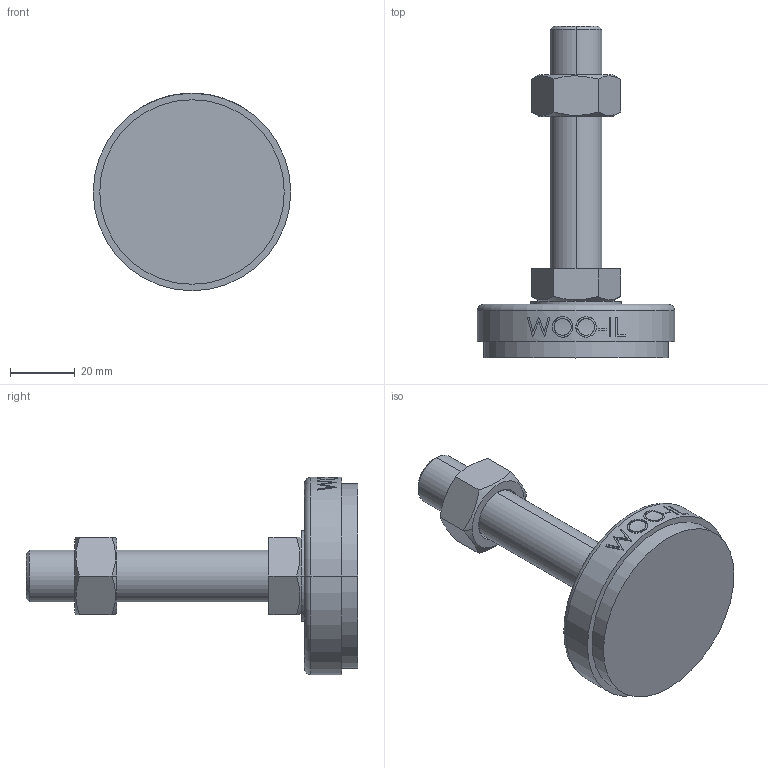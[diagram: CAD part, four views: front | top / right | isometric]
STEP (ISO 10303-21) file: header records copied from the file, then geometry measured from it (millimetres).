
FILE_DESCRIPTION (( 'STEP AP214' ), '1' );
FILE_NAME ('NS61-M16-75.step', '2021-01-11T05:46:23', ( '' ), ( '' ), 'SwSTEP 2.0', 'SolidWorks 2019', '' );
FILE_SCHEMA (( 'AUTOMOTIVE_DESIGN' ));
Length unit declared in the file: millimetre
Products named in the file (2): NS61-M16-75
Bounding box: 61 x 102.5 x 61 mm (x, y, z)
Volume: 70591.2 mm3; surface area: 16624.3 mm2
Topology: 3 solids, 3 shells, 96 faces, 223 edges, 144 vertices
Faces by surface type: plane 48, cylinder 18, bspline 16, cone 12, torus 2
Entity records: 4252 total; most frequent: CARTESIAN_POINT 2127, ORIENTED_EDGE 446, DIRECTION 381, EDGE_CURVE 223, VERTEX_POINT 144, AXIS2_PLACEMENT_3D 142, EDGE_LOOP 109, VECTOR 97
